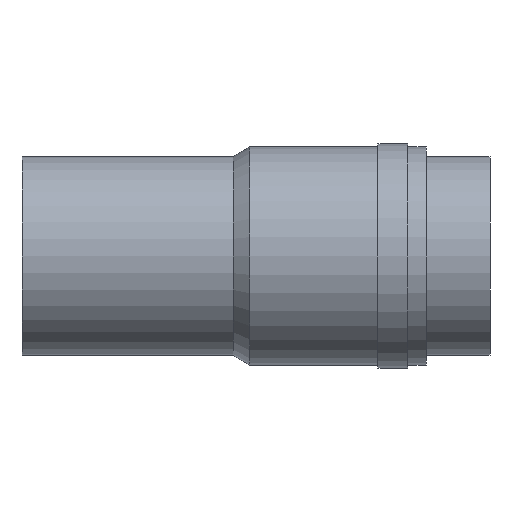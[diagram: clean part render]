
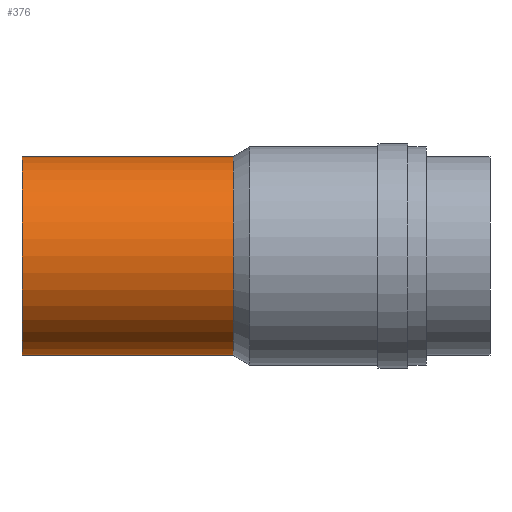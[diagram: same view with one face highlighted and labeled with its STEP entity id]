
A CAD part, front view. The second image highlights one B-rep face of the part: STEP entity #376.
In plain terms, the highlighted cylindrical face has radius 157.5 mm (diameter 315 mm), a full revolution.
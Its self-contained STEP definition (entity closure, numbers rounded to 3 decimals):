
#67=FACE_BOUND($,#162,.T.);
#96=FACE_OUTER_BOUND($,#161,.T.);
#161=EDGE_LOOP($,(#326));
#162=EDGE_LOOP($,(#327));
#180=CIRCLE($,#416,157.5);
#195=CIRCLE($,#446,157.5);
#213=VERTEX_POINT($,#634);
#228=VERTEX_POINT($,#679);
#246=EDGE_CURVE($,#213,#213,#180,.T.);
#261=EDGE_CURVE($,#228,#228,#195,.T.);
#326=ORIENTED_EDGE($,*,*,#246,.F.);
#327=ORIENTED_EDGE($,*,*,#261,.T.);
#343=CYLINDRICAL_SURFACE($,#447,157.5);
#376=ADVANCED_FACE($,(#96,#67),#343,.T.);
#416=AXIS2_PLACEMENT_3D($,#635,#518,#519);
#446=AXIS2_PLACEMENT_3D($,#680,#578,#579);
#447=AXIS2_PLACEMENT_3D($,#681,#580,#581);
#518=DIRECTION('center_axis',(1.,0.,0.));
#519=DIRECTION('ref_axis',(0.,1.,0.));
#578=DIRECTION('center_axis',(1.,0.,0.));
#579=DIRECTION('ref_axis',(0.,1.,0.));
#580=DIRECTION('center_axis',(1.,0.,0.));
#581=DIRECTION('ref_axis',(0.,1.,0.));
#634=CARTESIAN_POINT('',(-305.378,157.5,0.));
#635=CARTESIAN_POINT('Origin',(-305.378,0.,0.));
#679=CARTESIAN_POINT('',(-640.,157.5,0.));
#680=CARTESIAN_POINT('Origin',(-640.,0.,0.));
#681=CARTESIAN_POINT('Origin',(-546.5,0.,0.));
